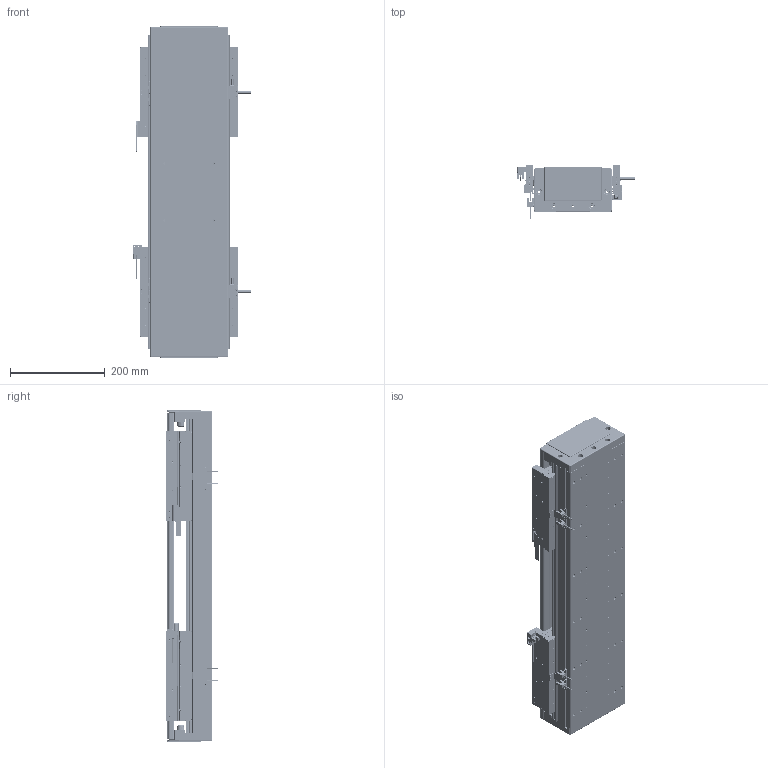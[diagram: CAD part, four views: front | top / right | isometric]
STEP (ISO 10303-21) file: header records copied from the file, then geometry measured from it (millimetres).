
FILE_DESCRIPTION (( 'STEP AP203' ), '1' );
FILE_NAME ('DA-C165-2-C2-T200-C010-0.2 直线电机.STEP', '2023-05-11T08:14:56', ( '微软用户' ), ( '微软中国' ), 'SwSTEP 2.0', 'SolidWorks 2019', '' );
FILE_SCHEMA (( 'CONFIG_CONTROL_DESIGN' ));
Length unit declared in the file: millimetre
Products named in the file (19): 复件 DA165-DG-H-N-00 端盖^DA-C165-C2-T-C010-0.2-N 直线电机; 复件 XD-U-02L 磁栅尺^DA-C165-C2-T-C010-0.2-N 直线电机_T; 复件 DA165-T-002-00 盖板^DA-C165-C2-T-C010-0.2-N 直线电机_0840-002-00; 复件 DA126-GYP-ZJ-00 中间光电感应片^DA-C165-C2-T-C010-0.2-N 直线电机; 珨极趙賑雄怢啣wf-C2; 葩璃 PM-T45^DA-C165-C2-T-C010-0.2-N 眻盄萇儂; DA-C165-2-C2-T200-C010-0.2 眻盄萇儂; 葩璃 PM-Y45^DA-C165-C2-T-C010-0.2-N 眻盄萇儂; 复件 DA95-HXJ-00 缓冲橡胶^DA-C165-C2-T-C010-0.2-N 直线电机; 葩璃 CKM01-W075-TRL^DA-C165-C2-T-C010-0.2-N 眻盄萇儂; IU-CU165-L-00 菁釱_L660; 复件 六角薄螺母 M3^DA-C165-C2-T-C010-0.2-N 直线电机_GB_FASTENER_NUT_STNAB M3-C; IU-CU165-L 菁釱絳寢; 复件 66338-1000-006-00 光电感应块^DA-C165-C2-T-C010-0.2-N 直线电机; 葩璃 DA95-GT-T-00^IU-CU165-L 菁釱絳寢_T; 复件 DKW-HXJ-JY-00 缓冲橡胶^DA-C165-C2-T-C010-0.2-N 直线电机; 复件 DMA-010-0.2 读数头^DA-C165-C2-T-C010-0.2-N 直线电机; 复件 DA165-GYP-00 光电感应片^DA-C165-C2-T-C010-0.2-N 直线电机; 复件 CKM02-W075-C1C2-TP-3.0 一体电机-C2^DA-C165-C2-T-C010-0.2-N 直线电机
Assembly tree (38 placements, depth 3):
  DA-C165-2-C2-T200-C010-0.2 眻盄萇儂
    IU-CU165-L 菁釱絳寢
      IU-CU165-L-00 菁釱_L660
      葩璃 DA95-GT-T-00^IU-CU165-L 菁釱絳寢_T  x4
    复件 DA165-DG-H-N-00 端盖^DA-C165-C2-T-C010-0.2-N 直线电机  x2
    复件 DA95-HXJ-00 缓冲橡胶^DA-C165-C2-T-C010-0.2-N 直线电机  x4
    复件 DA165-T-002-00 盖板^DA-C165-C2-T-C010-0.2-N 直线电机_0840-002-00
    复件 XD-U-02L 磁栅尺^DA-C165-C2-T-C010-0.2-N 直线电机_T
    葩璃 PM-T45^DA-C165-C2-T-C010-0.2-N 眻盄萇儂  x4
    葩璃 CKM01-W075-TRL^DA-C165-C2-T-C010-0.2-N 眻盄萇儂
    复件 CKM02-W075-C1C2-TP-3.0 一体电机-C2^DA-C165-C2-T-C010-0.2-N 直线电机  x2
    复件 DMA-010-0.2 读数头^DA-C165-C2-T-C010-0.2-N 直线电机  x2
    复件 DA165-GYP-00 光电感应片^DA-C165-C2-T-C010-0.2-N 直线电机  x2
    复件 66338-1000-006-00 光电感应块^DA-C165-C2-T-C010-0.2-N 直线电机
    葩璃 PM-Y45^DA-C165-C2-T-C010-0.2-N 眻盄萇儂
    复件 DA126-GYP-ZJ-00 中间光电感应片^DA-C165-C2-T-C010-0.2-N 直线电机
    复件 DKW-HXJ-JY-00 缓冲橡胶^DA-C165-C2-T-C010-0.2-N 直线电机  x2
    复件 六角薄螺母 M3^DA-C165-C2-T-C010-0.2-N 直线电机_GB_FASTENER_NUT_STNAB M3-C  x6
    珨极趙賑雄怢啣wf-C2  x2
Bounding box: 247.2 x 111.45 x 700 mm (x, y, z)
Volume: 7389064.8 mm3; surface area: 1809964.3 mm2
Topology: 115 solids, 115 shells, 4672 faces, 12257 edges, 7590 vertices
Faces by surface type: cylinder 2142, plane 1754, cone 680, torus 88, sphere 8
Entity records: 88808 total; most frequent: CARTESIAN_POINT 19234, DIRECTION 14317, ORIENTED_EDGE 13760, EDGE_CURVE 6880, AXIS2_PLACEMENT_3D 5300, VERTEX_POINT 4427, LINE 3717, VECTOR 3717
